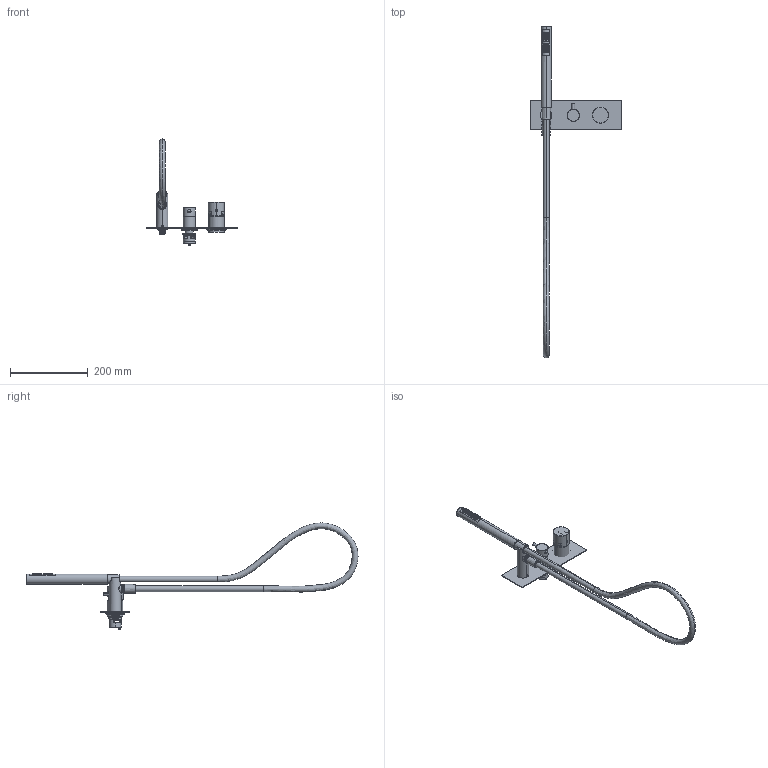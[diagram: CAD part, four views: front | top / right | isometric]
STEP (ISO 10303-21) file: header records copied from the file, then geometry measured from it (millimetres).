
FILE_DESCRIPTION((''),'2;1');
FILE_NAME('78529SV2_SW0001','2023-06-01T09:34:07',('volponeff'),(''),'CREO PARAMETRIC BY PTC INC, 2022014','CREO PARAMETRIC BY PTC INC, 2022014','');
FILE_SCHEMA(('CONFIG_CONTROL_DESIGN'));
Length unit declared in the file: millimetre
Products named in the file (1): 78529SV2_SW0001
Bounding box: 235 x 856.73 x 273.97 mm (x, y, z)
Surface area: 172723.2 mm2 (no closed solid volume)
Topology: 0 solids, 70 shells, 311 faces, 851 edges, 593 vertices
Faces by surface type: cylinder 194, plane 44, cone 29, torus 23, bspline 17, sphere 4
Entity records: 14740 total; most frequent: CARTESIAN_POINT 7445, DIRECTION 1449, ORIENTED_EDGE 1387, EDGE_CURVE 847, VERTEX_POINT 593, AXIS2_PLACEMENT_3D 581, EDGE_LOOP 311, FACE_OUTER_BOUND 311
